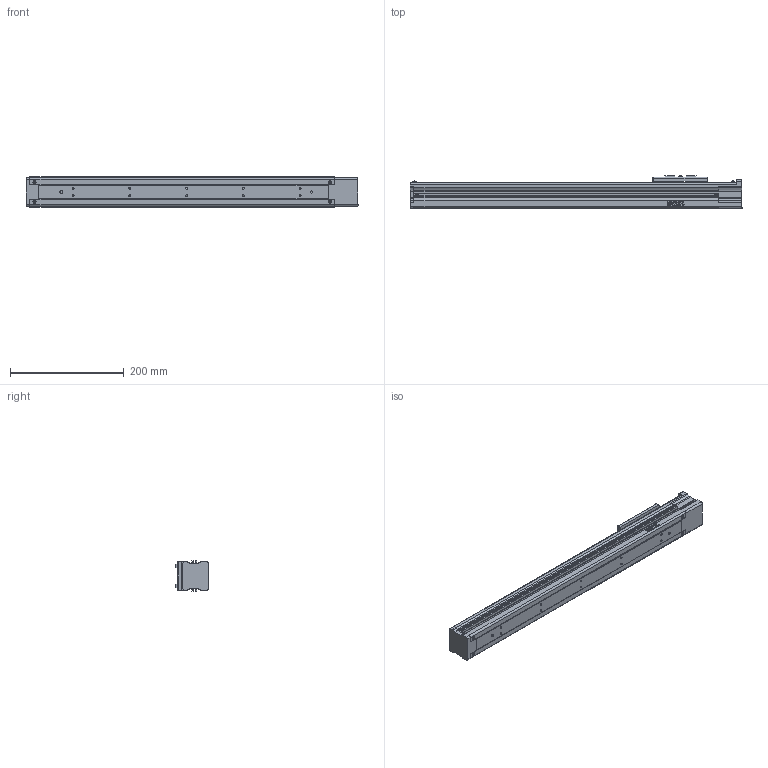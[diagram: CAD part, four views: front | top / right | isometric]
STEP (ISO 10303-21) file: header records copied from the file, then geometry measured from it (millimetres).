
FILE_DESCRIPTION(/* description */ (''),/* implementation_level */ '2;1');
FILE_NAME(/* name */ 'D:\混合母檔20191031\混和母檔\混和母檔\bin\Debug\Download\3D\KE504C-400AF0\KE504C-400AF0.stp',/* time_stamp */ '2019-11-04T13:41:23+08:00',/* author */ ('user'),/* organization */ (''),/* preprocessor_version */ 'ST-DEVELOPER v16.13',/* originating_system */ 'Autodesk Inventor 2018',/* authorisation */ '');
FILE_SCHEMA (('AUTOMOTIVE_DESIGN { 1 0 10303 214 3 1 1 }'));
Length unit declared in the file: millimetre
Products named in the file (3): KE504C-400AF0; KE50-F0-BP; KE50-SL
Assembly tree (2 placements, depth 2):
  KE504C-400AF0
    KE50-F0-BP
    KE50-SL
Bounding box: 585 x 58 x 54 mm (x, y, z)
Volume: 1275058.4 mm3; surface area: 157654.3 mm2
Topology: 2 solids, 10 shells, 947 faces, 2579 edges, 1703 vertices
Faces by surface type: plane 462, cone 157, bspline 140, cylinder 120, torus 62, sphere 6
Full cylindrical faces by diameter (mm): 2.459 x4, 2.729 x6, 3 x2, 3.242 x18, 3.5 x4, 4 x3, 5.5 x4, 6 x1, 7.9 x1, 8 x1, 26 x1, 30 x1
Entity records: 33194 total; most frequent: CARTESIAN_POINT 10193, ORIENTED_EDGE 4880, DIRECTION 4407, EDGE_CURVE 2440, VERTEX_POINT 1660, AXIS2_PLACEMENT_3D 1506, LINE 1395, VECTOR 1395
